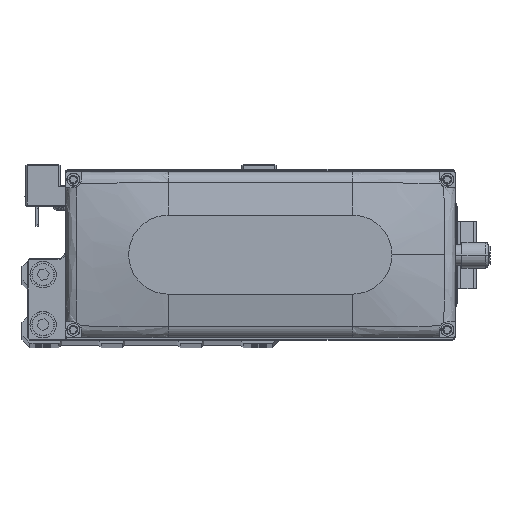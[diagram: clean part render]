
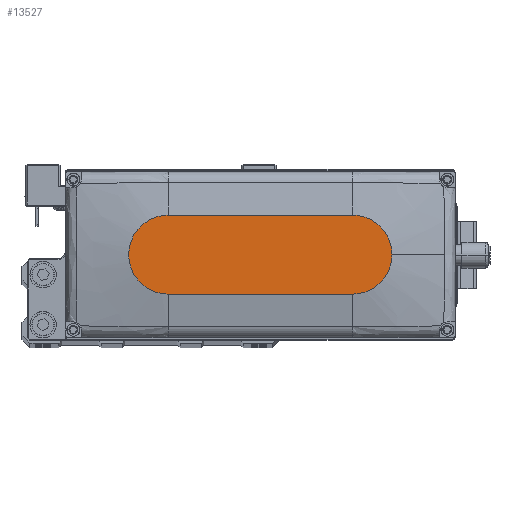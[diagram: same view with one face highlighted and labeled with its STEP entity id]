
A CAD part, top view. The second image highlights one B-rep face of the part: STEP entity #13527.
In plain terms, the highlighted planar face has unit normal (0, 0, 1).
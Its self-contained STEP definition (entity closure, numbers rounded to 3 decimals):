
#224 = AXIS2_PLACEMENT_3D ( 'NONE', #26164, #39749, #9170 ) ;
#1662 = ORIENTED_EDGE ( 'NONE', *, *, #7481, .T. ) ;
#1815 = EDGE_LOOP ( 'NONE', ( #16534, #7217, #1662, #25723, #37645 ) ) ;
#3378 = CIRCLE ( 'NONE', #9073, 15. ) ;
#4148 = CARTESIAN_POINT ( 'NONE',  ( 35., 15., 35. ) ) ;
#5199 = EDGE_CURVE ( 'NONE', #14830, #22826, #16606, .T. ) ;
#5417 = DIRECTION ( 'NONE',  ( 1., 0., 0. ) ) ;
#6311 = LINE ( 'NONE', #19951, #12270 ) ;
#6597 = DIRECTION ( 'NONE',  ( 1., 0., 0. ) ) ;
#6779 = CARTESIAN_POINT ( 'NONE',  ( -35., -15., 35. ) ) ;
#7161 = CARTESIAN_POINT ( 'NONE',  ( 35., -15., 35. ) ) ;
#7217 = ORIENTED_EDGE ( 'NONE', *, *, #25028, .T. ) ;
#7481 = EDGE_CURVE ( 'NONE', #43096, #14830, #37354, .T. ) ;
#8911 = CARTESIAN_POINT ( 'NONE',  ( 35., 0., 35. ) ) ;
#9073 = AXIS2_PLACEMENT_3D ( 'NONE', #8911, #22567, #36170 ) ;
#9170 = DIRECTION ( 'NONE',  ( 1., 0., 0. ) ) ;
#11190 = CARTESIAN_POINT ( 'NONE',  ( -35., -15., 35. ) ) ;
#12270 = VECTOR ( 'NONE', #33564, 1000. ) ;
#12483 = CIRCLE ( 'NONE', #37461, 15. ) ;
#12519 = PLANE ( 'NONE',  #224 ) ;
#13527 = ADVANCED_FACE ( 'NONE', ( #43076 ), #12519, .T. ) ;
#14830 = VERTEX_POINT ( 'NONE', #7161 ) ;
#16534 = ORIENTED_EDGE ( 'NONE', *, *, #30632, .T. ) ;
#16606 = CIRCLE ( 'NONE', #41516, 15. ) ;
#19951 = CARTESIAN_POINT ( 'NONE',  ( -35., 15., 35. ) ) ;
#20415 = DIRECTION ( 'NONE',  ( 1., 0., 0. ) ) ;
#21920 = EDGE_CURVE ( 'NONE', #22826, #37557, #3378, .T. ) ;
#22396 = CARTESIAN_POINT ( 'NONE',  ( -35., 0., 35. ) ) ;
#22567 = DIRECTION ( 'NONE',  ( 0., 0., 1. ) ) ;
#22826 = VERTEX_POINT ( 'NONE', #27258 ) ;
#23605 = CARTESIAN_POINT ( 'NONE',  ( 35., 0., 35. ) ) ;
#24228 = VERTEX_POINT ( 'NONE', #28156 ) ;
#25028 = EDGE_CURVE ( 'NONE', #24228, #43096, #12483, .T. ) ;
#25723 = ORIENTED_EDGE ( 'NONE', *, *, #5199, .T. ) ;
#26164 = CARTESIAN_POINT ( 'NONE',  ( 0., 0., 35. ) ) ;
#27258 = CARTESIAN_POINT ( 'NONE',  ( 50., 0., 35. ) ) ;
#28156 = CARTESIAN_POINT ( 'NONE',  ( -35., 15., 35. ) ) ;
#30632 = EDGE_CURVE ( 'NONE', #37557, #24228, #6311, .T. ) ;
#33564 = DIRECTION ( 'NONE',  ( -1., 0., 0. ) ) ;
#34244 = VECTOR ( 'NONE', #20415, 1000. ) ;
#36012 = DIRECTION ( 'NONE',  ( 0., 0., 1. ) ) ;
#36170 = DIRECTION ( 'NONE',  ( 1., 0., 0. ) ) ;
#37197 = DIRECTION ( 'NONE',  ( 0., 0., 1. ) ) ;
#37354 = LINE ( 'NONE', #6779, #34244 ) ;
#37461 = AXIS2_PLACEMENT_3D ( 'NONE', #22396, #36012, #5417 ) ;
#37557 = VERTEX_POINT ( 'NONE', #4148 ) ;
#37645 = ORIENTED_EDGE ( 'NONE', *, *, #21920, .T. ) ;
#39749 = DIRECTION ( 'NONE',  ( 0., 0., 1. ) ) ;
#41516 = AXIS2_PLACEMENT_3D ( 'NONE', #23605, #37197, #6597 ) ;
#43076 = FACE_OUTER_BOUND ( 'NONE', #1815, .T. ) ;
#43096 = VERTEX_POINT ( 'NONE', #11190 ) ;
